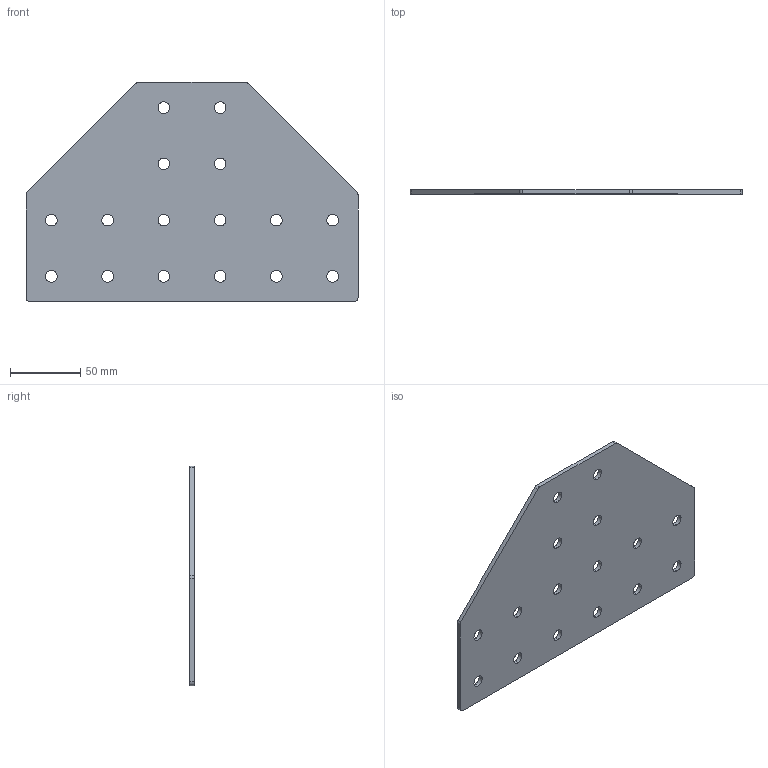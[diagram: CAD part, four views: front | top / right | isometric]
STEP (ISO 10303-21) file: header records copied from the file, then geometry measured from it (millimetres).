
FILE_DESCRIPTION (( 'STEP AP203' ), '1' );
FILE_NAME ('ﾒ-16-ﾓ-40.STEP', '2016-07-22T11:37:28', ( '' ), ( '' ), 'SwSTEP 2.0', 'SolidWorks 2014', '' );
FILE_SCHEMA (( 'CONFIG_CONTROL_DESIGN' ));
Length unit declared in the file: millimetre
Products named in the file (1): ﾒ-16-ﾓ-40
Bounding box: 236 x 3 x 156 mm (x, y, z)
Surface area: 62807.2 mm2 (no closed solid volume)
Topology: 0 solids, 1 shells, 46 faces, 132 edges, 88 vertices
Faces by surface type: cylinder 38, plane 8
Entity records: 1693 total; most frequent: DIRECTION 302, CARTESIAN_POINT 267, ORIENTED_EDGE 264, EDGE_CURVE 132, AXIS2_PLACEMENT_3D 123, VERTEX_POINT 88, EDGE_LOOP 78, CIRCLE 76
